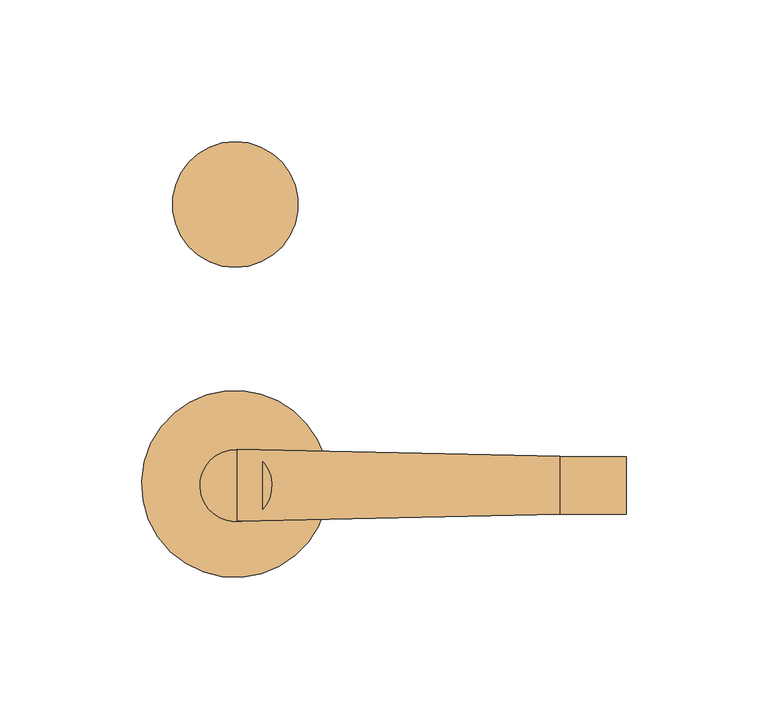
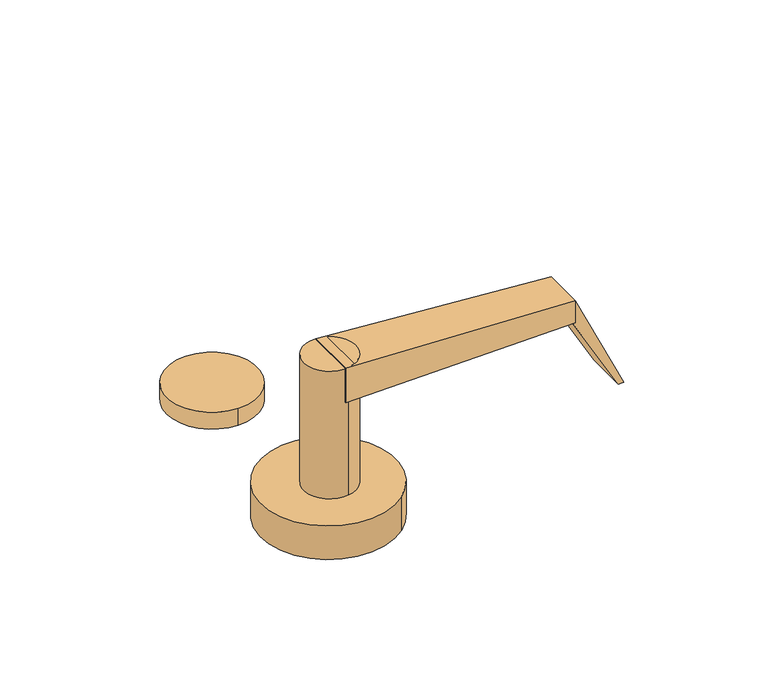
"""IFC4 building model written with IfcOpenShell, lengths in millimetres: door geometry, Door_Handle-Teknion-FHHSL-Schlage L Series(Child) : (3) Office and Inner Entrance Lock w/Interchangeable core keyway w/ADA thumbturn."""

from ifc_helpers import new_model, si_unit, point, frame, frame_2d, origin, origin_with_axes, place, context, project, spatial, polyline, circle_curve, trimmed, segment, composite_curve, outline, extrude, source, transform, mapped, element, save
from ifc_brep_helpers import plane_surface, spline_surface, advanced_brep


def door_373dd451(model_context):
    return source(origin(), model_context, "Body", "SolidModel", [
        extrude(outline(composite_curve([segment(trimmed(circle_curve(frame_2d((-1.5048449, 99.4936932)), 22.212872), [point((-1.5048449, 121.7065651))], [point((-1.5048449, 77.2808212))], False, "CARTESIAN"), True, "CONTINUOUS"), segment(trimmed(circle_curve(frame_2d((-1.5048449, 99.4936932)), 22.212872), [point((-1.5048449, 77.2808212))], [point((-1.5048449, 121.7065651))], False, "CARTESIAN"), True, "CONTINUOUS")], self_intersect=False)), origin_with_axes(), (0.0, 0.0, 1.0), 8.636),
        advanced_brep(
        [(113.0826159, -9.8661661, 77.089), (113.0826159, -9.8661661, 65.659), (113.0826159, 10.4783486, 65.659), (113.0826159, 10.4783486, 77.089), (-0.79375, -12.3783123, 83.439), (-0.79375, 13.0118705, 83.439), (-0.79375, 13.0089229, 65.659), (-0.79375, -12.378509, 65.659)],
        [
            (0, 1),
            (1, 2),
            (2, 3),
            (3, 0),
            (4, 5),
            (5, 6),
            (6, 7),
            (7, 4),
            (7, 1),
            (0, 4),
            (6, 2),
            (5, 3),
        ],
        [
            plane_surface(frame((113.0826159, 0.3060912, 71.374), z_axis=(1.0, 0.0, 0.0), x_axis=(0.0, -1.0, 0.0))),
            plane_surface(frame((-0.79375, 0.315993, 74.549), z_axis=(-1.0000000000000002, 0.0, 0.0), x_axis=(0.0, -1.1064247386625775e-05, -0.9999999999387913))),
            spline_surface(1, 1, [[(-0.79375, -12.3783123, 83.439), (113.0826159, -9.8661661, 77.089)], [(-0.79375, -12.378509, 65.659), (113.0826159, -9.8661661, 65.659)]], [2, 2], [2, 2], [0.0, 1.0], [0.0, 1.0]),
            plane_surface(frame((-0.79375, 0.315207, 65.659), z_axis=(0.0, 0.0, -1.0), x_axis=(0.0, 1.0, 0.0))),
            spline_surface(1, 1, [[(-0.79375, 13.0089229, 65.659), (113.0826159, 10.4783486, 65.659)], [(-0.79375, 13.0118705, 83.439), (113.0826159, 10.4783486, 77.089)]], [2, 2], [2, 2], [0.0, 1.0], [0.0, 1.0]),
            plane_surface(frame((-0.79375, 0.3167791, 83.439), z_axis=(0.05567573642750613, 0.0, 0.9984489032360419), x_axis=(0.0, -1.0, 0.0))),
        ],
        [
            (0, [[1, 2, 3, 4]]),
            (1, [[5, 6, 7, 8]]),
            (2, [[-8, 9, -1, 10]]),
            (3, [[-7, 11, -2, -9]]),
            (4, [[-6, 12, -3, -11]]),
            (5, [[-5, -10, -4, -12]]),
        ],
    ),
        extrude(outline(composite_curve([segment(trimmed(circle_curve(frame_2d((-1.3064074, 0.1984375)), 12.7), [point((-3.427265, 12.7200973))], [point((0.8144502, -12.3232223))], False, "CARTESIAN"), True, "CONTINUOUS"), segment(trimmed(circle_curve(frame_2d((-1.3064074, 0.1984375)), 12.7), [point((0.8144502, -12.3232223))], [point((-3.427265, 12.7200973))], False, "CARTESIAN"), True, "CONTINUOUS")], self_intersect=False)), frame((0.0, 0.0, 17.399), z_axis=(0.0, 0.0, 1.0), x_axis=(1.0, 0.0, 0.0)), (0.0, 0.0, 1.0), 66.04),
        extrude(outline(composite_curve([segment(trimmed(circle_curve(frame_2d((-1.6178614, 0.7745191)), 33.02), [point((-22.9508261, 25.9781898))], [point((19.7151032, -24.4291516))], False, "CARTESIAN"), True, "CONTINUOUS"), segment(trimmed(circle_curve(frame_2d((-1.6178614, 0.7745191)), 33.02), [point((19.7151032, -24.4291516))], [point((-22.9508261, 25.9781898))], False, "CARTESIAN"), True, "CONTINUOUS")], self_intersect=False)), origin_with_axes(), (0.0, 0.0, 1.0), 17.399),
        extrude(outline(polyline([(77.089, 113.0826159), (65.659, 113.0826159), (65.659, 111.7545147), (26.5862634, 134.0924288), (26.5862634, 136.6324288), (77.089, 113.0826159)])), frame((0.0, -9.8416514, 0.0), z_axis=(0.0, 1.0, 0.0), x_axis=(0.0, 0.0, 1.0)), (0.0, 0.0, 1.0), 20.32),
    ])


if __name__ == "__main__":
    model = new_model("IFC4")
    model_context = context("Model", 3, world=origin())
    ifc_project = project(units=[si_unit("LENGTHUNIT", "METRE", prefix="MILLI")], contexts=[model_context])
    site = spatial("IfcSite", under=ifc_project)
    building = spatial("IfcBuilding", under=site)
    placement = place(None, origin())
    door_shape = door_373dd451(model_context)
    element("IfcDoor", 1, ObjectType="Door_Handle-Teknion-FHHSL-Schlage L Series(Child) : (3) Office and Inner Entrance Lock w/Interchangeable core keyway w/ADA thumbturn", at=placement, inside=building, context=model_context, shape_type="MappedRepresentation", body=[
        mapped(door_shape, transform((0.0, 0.0, 0.0), x_axis=(1.0, 0.0, 0.0), y_axis=(0.0, 1.0, 0.0), z_axis=(0.0, 0.0, 1.0))),
    ])
    save(model, "model.ifc")
